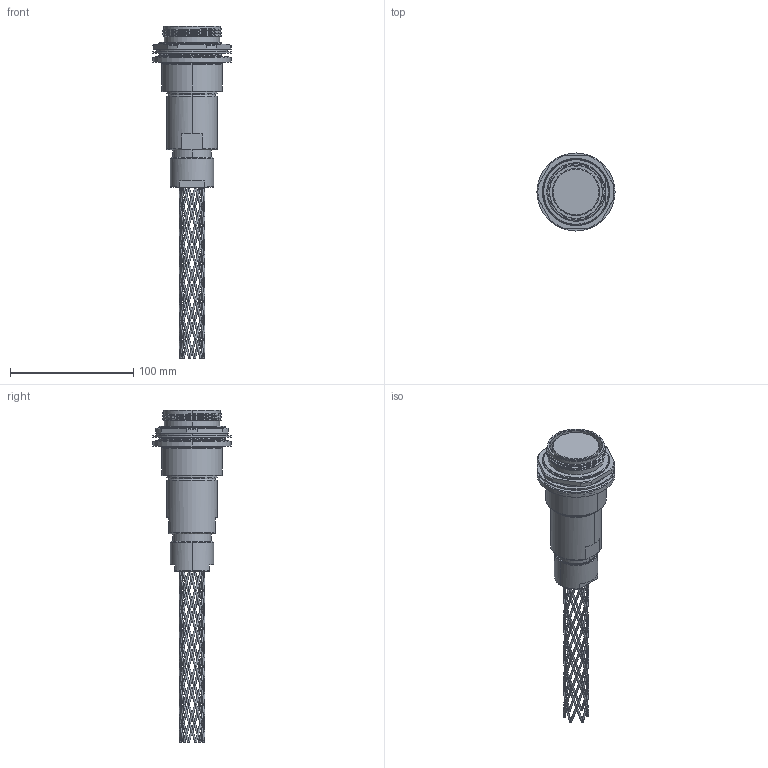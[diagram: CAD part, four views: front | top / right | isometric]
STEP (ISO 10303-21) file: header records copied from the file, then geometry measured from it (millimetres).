
FILE_DESCRIPTION (( 'STEP AP214' ), '1' );
FILE_NAME ('QLINK-RJTX-29XX-GXXX.STEP', '2025-09-30T22:43:11', ( '' ), ( '' ), 'SwSTEP 2.0', 'SolidWorks 2024', '' );
FILE_SCHEMA (( 'AUTOMOTIVE_DESIGN' ));
Products named in the file (1): QLINK-RJTX-29XX-GXXX
Bounding box: 63.25 x 63.25 x 268.99 mm (x, y, z)
Volume: 195989.2 mm3; surface area: 45580.3 mm2
Topology: 2 solids, 2 shells, 446 faces, 1252 edges, 718 vertices
Faces by surface type: bspline 248, cylinder 82, plane 57, cone 37, torus 22
Entity records: 123814 total; most frequent: CARTESIAN_POINT 115213, ORIENTED_EDGE 2504, EDGE_CURVE 1252, DIRECTION 1114, VERTEX_POINT 718, AXIS2_PLACEMENT_3D 479, EDGE_LOOP 470, FACE_OUTER_BOUND 446
